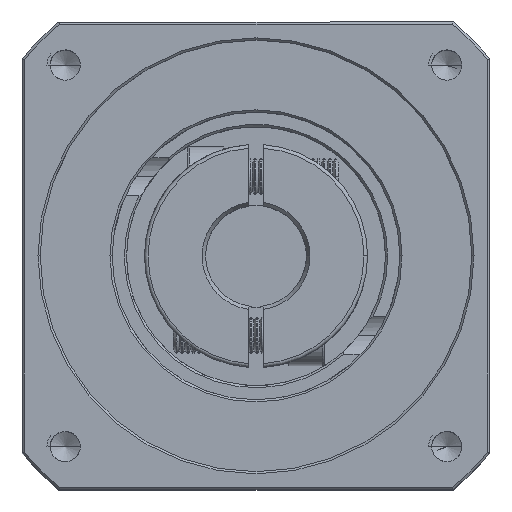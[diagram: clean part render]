
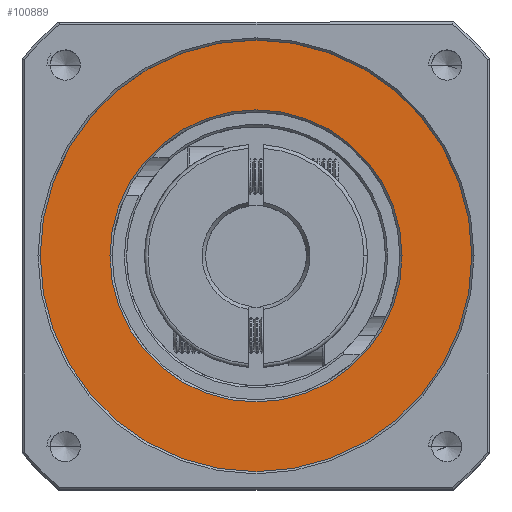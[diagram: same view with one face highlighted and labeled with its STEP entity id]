
A CAD part, top view. The second image highlights one B-rep face of the part: STEP entity #100889.
In plain terms, the highlighted planar face has unit normal (0, 0, 1).
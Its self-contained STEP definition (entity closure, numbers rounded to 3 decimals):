
#5801 = DIRECTION ( 'NONE',  ( 0., 0., -1. ) ) ;
#11637 = CARTESIAN_POINT ( 'NONE',  ( -64.661, 33.999, 21.993 ) ) ;
#13545 = FACE_BOUND ( 'NONE', #59042, .T. ) ;
#15297 = CIRCLE ( 'NONE', #51642, 20.3 ) ;
#17086 = EDGE_CURVE ( 'NONE', #67377, #75004, #58908, .T. ) ;
#20019 = DIRECTION ( 'NONE',  ( 1., 0., 0. ) ) ;
#21056 = CARTESIAN_POINT ( 'NONE',  ( -64.661, 33.999, 21.993 ) ) ;
#21848 = PLANE ( 'NONE',  #44314 ) ;
#22756 = DIRECTION ( 'NONE',  ( 0., 0., 1. ) ) ;
#28125 = CARTESIAN_POINT ( 'NONE',  ( -84.961, 33.999, 21.993 ) ) ;
#29218 = CARTESIAN_POINT ( 'NONE',  ( -64.661, 33.999, 21.993 ) ) ;
#29469 = DIRECTION ( 'NONE',  ( 1., 0., 0. ) ) ;
#31018 = CIRCLE ( 'NONE', #84016, 20.3 ) ;
#31690 = CIRCLE ( 'NONE', #62947, 30. ) ;
#34554 = CARTESIAN_POINT ( 'NONE',  ( -94.661, 33.999, 21.993 ) ) ;
#36690 = EDGE_CURVE ( 'NONE', #61664, #60869, #15297, .T. ) ;
#37557 = DIRECTION ( 'NONE',  ( 1., 0., 0. ) ) ;
#38023 = EDGE_LOOP ( 'NONE', ( #80435, #82678 ) ) ;
#44314 = AXIS2_PLACEMENT_3D ( 'NONE', #72365, #22756, #80460 ) ;
#44914 = EDGE_CURVE ( 'NONE', #60869, #61664, #31018, .T. ) ;
#51642 = AXIS2_PLACEMENT_3D ( 'NONE', #55562, #5801, #63833 ) ;
#55389 = AXIS2_PLACEMENT_3D ( 'NONE', #29218, #86722, #37557 ) ;
#55562 = CARTESIAN_POINT ( 'NONE',  ( -64.661, 33.999, 21.993 ) ) ;
#58908 = CIRCLE ( 'NONE', #55389, 30. ) ;
#59042 = EDGE_LOOP ( 'NONE', ( #74123, #75034 ) ) ;
#60869 = VERTEX_POINT ( 'NONE', #28125 ) ;
#61664 = VERTEX_POINT ( 'NONE', #65897 ) ;
#62947 = AXIS2_PLACEMENT_3D ( 'NONE', #21056, #78805, #29469 ) ;
#63833 = DIRECTION ( 'NONE',  ( 1., 0., 0. ) ) ;
#65897 = CARTESIAN_POINT ( 'NONE',  ( -44.361, 33.999, 21.993 ) ) ;
#66672 = EDGE_CURVE ( 'NONE', #75004, #67377, #31690, .T. ) ;
#67377 = VERTEX_POINT ( 'NONE', #67417 ) ;
#67417 = CARTESIAN_POINT ( 'NONE',  ( -34.661, 33.999, 21.993 ) ) ;
#69665 = DIRECTION ( 'NONE',  ( 0., 0., -1. ) ) ;
#72365 = CARTESIAN_POINT ( 'NONE',  ( -64.661, 33.999, 21.993 ) ) ;
#74123 = ORIENTED_EDGE ( 'NONE', *, *, #36690, .T. ) ;
#75004 = VERTEX_POINT ( 'NONE', #34554 ) ;
#75034 = ORIENTED_EDGE ( 'NONE', *, *, #44914, .T. ) ;
#78805 = DIRECTION ( 'NONE',  ( 0., 0., 1. ) ) ;
#80435 = ORIENTED_EDGE ( 'NONE', *, *, #17086, .T. ) ;
#80460 = DIRECTION ( 'NONE',  ( 1., 0., 0. ) ) ;
#82678 = ORIENTED_EDGE ( 'NONE', *, *, #66672, .T. ) ;
#84016 = AXIS2_PLACEMENT_3D ( 'NONE', #11637, #69665, #20019 ) ;
#86722 = DIRECTION ( 'NONE',  ( 0., 0., 1. ) ) ;
#98449 = FACE_OUTER_BOUND ( 'NONE', #38023, .T. ) ;
#100889 = ADVANCED_FACE ( 'NONE', ( #13545, #98449 ), #21848, .T. ) ;
